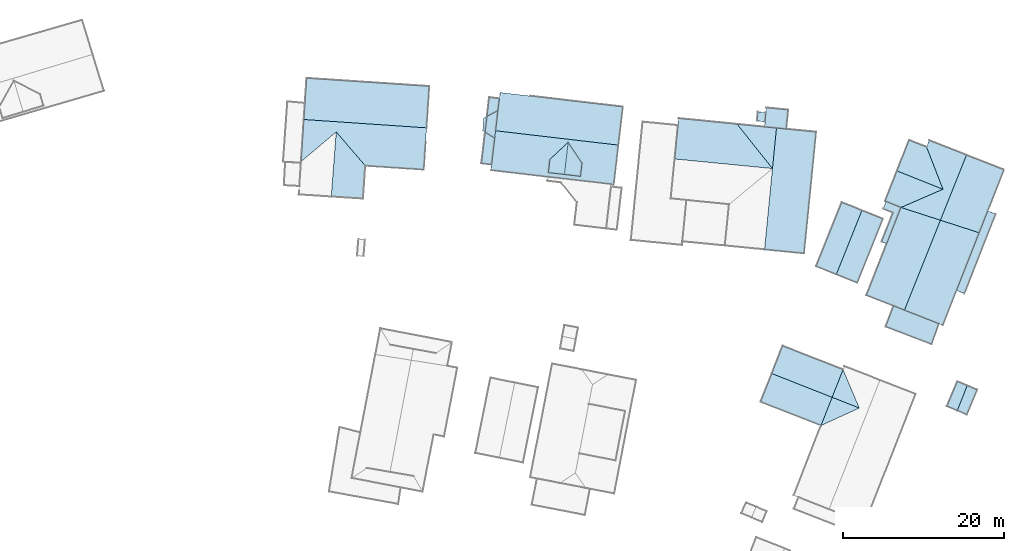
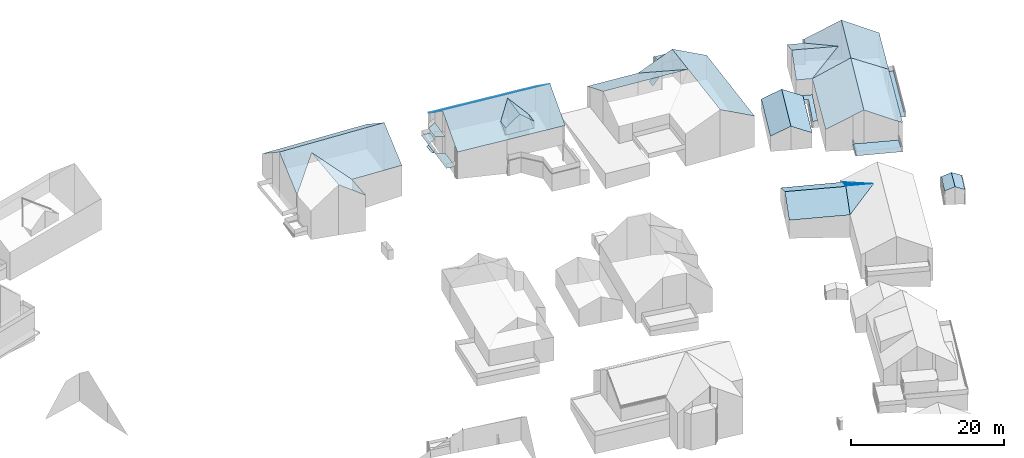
# Not in any storey, part 57 of 57: 66 roofs.
"""IFC4 building model written with IfcOpenShell, lengths in metres."""

from ifc_helpers import new_model, entity, si_unit, converted_unit, frame, origin, place, context, subcontext, project, spatial, face_set, surface_model, element, save


model = new_model("IFC4")

# Units and contexts
model_context = context("Model", 3, precision=1e-05, world=origin())
body_context = subcontext(model_context, "Body", "Model", "MODEL_VIEW")
ifc_project = project(units=[converted_unit("PLANEANGLEUNIT", "DEGREE", entity("IfcRatioMeasure", 0.0174532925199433), si_unit("PLANEANGLEUNIT", "RADIAN"), dimensions=[0, 0, 0, 0, 0, 0, 0]), si_unit("AREAUNIT", "SQUARE_METRE"), si_unit("LENGTHUNIT", "METRE")], contexts=[model_context])

# Site, building
site_placement = place(None, origin())
site = spatial("IfcSite", under=ifc_project, at=site_placement, Name="_site")
building_1_placement = place(site_placement, origin())
building_1 = spatial("IfcBuilding", under=site, at=building_1_placement, Name="_building")

# Roofs
roof_1_placement = place(building_1_placement, origin())
element("IfcRoof", 1, at=roof_1_placement, inside=building_1, Name="Roof", PredefinedType="NOTDEFINED", context=body_context, shape_type="SurfaceModel", body=[
    surface_model("IfcFaceBasedSurfaceModel", [(281.352, 143.278, 113.11), (278.854, 144.277, 111.8), (275.667, 136.357, 111.8), (278.174, 135.347, 113.11)], [face_set([[[0, 1, 2, 3]]])]),
])
roof_2_placement = place(building_1_placement, origin())
element("IfcRoof", 2, at=roof_2_placement, inside=building_1, Name="Roof", PredefinedType="NOTDEFINED", context=body_context, shape_type="SurfaceModel", body=[
    surface_model("IfcFaceBasedSurfaceModel", [(278.174, 135.347, 113.11), (280.772, 134.306, 111.8), (283.959, 142.226, 111.8), (281.352, 143.278, 113.11)], [face_set([[[0, 1, 2, 3]]])]),
])
roof_3_placement = place(building_1_placement, origin())
element("IfcRoof", 3, at=roof_3_placement, inside=building_1, Name="Roof", PredefinedType="NOTDEFINED", context=body_context, shape_type="SurfaceModel", body=[
    surface_model("IfcFaceBasedSurfaceModel", [(281.352, 143.278, 113.11), (278.854, 144.277, 111.8), (275.667, 136.357, 111.8), (278.174, 135.347, 113.11)], [face_set([[[0, 1, 2, 3]]])]),
])
roof_4_placement = place(building_1_placement, origin())
element("IfcRoof", 4, at=roof_4_placement, inside=building_1, Name="Roof", PredefinedType="NOTDEFINED", context=body_context, shape_type="SurfaceModel", body=[
    surface_model("IfcFaceBasedSurfaceModel", [(278.174, 135.347, 113.11), (280.772, 134.306, 111.8), (283.959, 142.226, 111.8), (281.352, 143.278, 113.11)], [face_set([[[0, 1, 2, 3]]])]),
])

# Building
building_2_placement = place(site_placement, origin())
building_2 = spatial("IfcBuilding", under=site, at=building_2_placement, Name="_building")

# Roofs
roof_5_placement = place(building_2_placement, origin())
element("IfcRoof", 5, at=roof_5_placement, inside=building_2, Name="Roof", PredefinedType="NOTDEFINED", context=body_context, shape_type="SurfaceModel", body=[
    surface_model("IfcFaceBasedSurfaceModel", [(251.143, 151.39, 119.58), (251.705, 156.14, 116.13), (236.477, 157.917, 116.15), (236.389, 157.159, 116.697), (236.215, 155.673, 117.77), (235.925, 153.167, 119.58)], [face_set([[[0, 1, 2, 3, 4, 5]]])]),
])
roof_6_placement = place(building_2_placement, origin())
element("IfcRoof", 6, at=roof_6_placement, inside=building_2, Name="Roof", PredefinedType="NOTDEFINED", context=body_context, shape_type="SurfaceModel", body=[
    surface_model("IfcFaceBasedSurfaceModel", [(244.917, 151.736, 119.316), (244.454, 147.744, 119.32), (246.449, 147.507, 117.68), (246.638, 149.164, 117.675)], [face_set([[[0, 1, 2, 3]]])]),
])
roof_7_placement = place(building_2_placement, origin())
element("IfcRoof", 7, at=roof_7_placement, inside=building_2, Name="Roof", PredefinedType="NOTDEFINED", context=body_context, shape_type="SurfaceModel", body=[
    surface_model("IfcFaceBasedSurfaceModel", [(244.917, 151.736, 119.316), (242.657, 149.627, 117.674), (242.468, 147.971, 117.68), (244.454, 147.744, 119.32)], [face_set([[[0, 1, 2, 3]]])]),
])
roof_8_placement = place(building_2_placement, origin())
element("IfcRoof", 8, at=roof_8_placement, inside=building_2, Name="Roof", PredefinedType="NOTDEFINED", context=body_context, shape_type="SurfaceModel", body=[
    surface_model("IfcFaceBasedSurfaceModel", [(235.925, 153.167, 119.58), (235.816, 152.248, 118.935), (235.43, 148.966, 116.632), (235.35, 148.278, 116.15), (242.386, 147.452, 116.15), (250.289, 146.537, 116.15), (250.578, 146.5, 116.15), (251.143, 151.39, 119.58)], [face_set([[[0, 1, 2, 3, 4, 5, 6, 7]]])]),
])
roof_9_placement = place(building_2_placement, origin())
element("IfcRoof", 9, at=roof_9_placement, inside=building_2, Name="Roof", PredefinedType="NOTDEFINED", context=body_context, shape_type="SurfaceModel", body=[
    surface_model("IfcFaceBasedSurfaceModel", [(251.143, 151.39, 119.58), (251.705, 156.14, 116.13), (236.477, 157.917, 116.15), (236.389, 157.159, 116.697), (236.215, 155.673, 117.77), (235.925, 153.167, 119.58)], [face_set([[[0, 1, 2, 3, 4, 5]]])]),
])
roof_10_placement = place(building_2_placement, origin())
element("IfcRoof", 10, at=roof_10_placement, inside=building_2, Name="Roof", PredefinedType="NOTDEFINED", context=body_context, shape_type="SurfaceModel", body=[
    surface_model("IfcFaceBasedSurfaceModel", [(235.925, 153.167, 116.07), (236.215, 155.673, 116.07), (234.856, 154.961, 116.07), (234.622, 152.968, 116.07), (235.816, 152.248, 116.07)], [face_set([[[0, 1, 2, 3, 4]]])]),
])
roof_11_placement = place(building_2_placement, origin())
element("IfcRoof", 11, at=roof_11_placement, inside=building_2, Name="Roof", PredefinedType="NOTDEFINED", context=body_context, shape_type="SurfaceModel", body=[
    surface_model("IfcFaceBasedSurfaceModel", [(235.925, 153.167, 119.58), (235.816, 152.248, 118.935), (235.43, 148.966, 116.632), (235.35, 148.278, 116.15), (242.386, 147.452, 116.15), (250.289, 146.537, 116.15), (250.578, 146.5, 116.15), (251.143, 151.39, 119.58)], [face_set([[[0, 1, 2, 3, 4, 5, 6, 7]]])]),
])
roof_12_placement = place(building_2_placement, origin())
element("IfcRoof", 12, at=roof_12_placement, inside=building_2, Name="Roof", PredefinedType="NOTDEFINED", context=body_context, shape_type="SurfaceModel", body=[
    surface_model("IfcFaceBasedSurfaceModel", [(244.917, 151.736, 119.316), (242.657, 149.627, 117.674), (242.468, 147.971, 117.68), (244.454, 147.744, 119.32)], [face_set([[[0, 1, 2, 3]]])]),
])
roof_13_placement = place(building_2_placement, origin())
element("IfcRoof", 13, at=roof_13_placement, inside=building_2, Name="Roof", PredefinedType="NOTDEFINED", context=body_context, shape_type="SurfaceModel", body=[
    surface_model("IfcFaceBasedSurfaceModel", [(244.917, 151.736, 119.316), (244.454, 147.744, 119.32), (246.449, 147.507, 117.68), (246.638, 149.164, 117.675)], [face_set([[[0, 1, 2, 3]]])]),
])
roof_14_placement = place(building_2_placement, origin())
element("IfcRoof", 14, at=roof_14_placement, inside=building_2, Name="Roof", PredefinedType="NOTDEFINED", context=body_context, shape_type="SurfaceModel", body=[
    surface_model("IfcFaceBasedSurfaceModel", [(244.454, 147.744, 116.516), (246.449, 147.507, 116.513), (246.638, 149.164, 117.675), (244.917, 151.736, 119.316), (242.657, 149.627, 117.674), (242.468, 147.971, 116.513)], [face_set([[[0, 1, 2, 3, 4, 5]]])]),
])
roof_15_placement = place(building_2_placement, origin())
element("IfcRoof", 15, at=roof_15_placement, inside=building_2, Name="Roof", PredefinedType="NOTDEFINED", context=body_context, shape_type="SurfaceModel", body=[
    surface_model("IfcFaceBasedSurfaceModel", [(234.856, 154.961, 113.45), (236.215, 155.673, 113.45), (236.389, 157.159, 113.45), (235.132, 157.308, 113.45)], [face_set([[[0, 1, 2, 3]]])]),
])
roof_16_placement = place(building_2_placement, origin())
element("IfcRoof", 16, at=roof_16_placement, inside=building_2, Name="Roof", PredefinedType="NOTDEFINED", context=body_context, shape_type="SurfaceModel", body=[
    surface_model("IfcFaceBasedSurfaceModel", [(234.856, 154.961, 113.45), (234.421, 154.733, 113.45), (234.314, 153.154, 113.45), (234.622, 152.968, 113.45)], [face_set([[[0, 1, 2, 3]]])]),
])
for number, where, name in (
    (17, (0.0, 0.0, 0.0), "Roof"),
    (18, (0.0, 0.0, 0.0), "Roof"),
):
    element("IfcRoof", number, at=place(building_2_placement, frame(where)), inside=building_2, Name=name, PredefinedType="NOTDEFINED", context=body_context, shape_type="SurfaceModel", body=[
        surface_model("IfcFaceBasedSurfaceModel", [(235.43, 148.966, 113.45), (235.816, 152.248, 113.45), (234.622, 152.968, 113.45), (234.169, 149.116, 113.45)], [face_set([[[0, 1, 2, 3]]])]),
    ])
roof_17_placement = place(building_2_placement, origin())
element("IfcRoof", 19, at=roof_17_placement, inside=building_2, Name="Roof", PredefinedType="NOTDEFINED", context=body_context, shape_type="SurfaceModel", body=[
    surface_model("IfcFaceBasedSurfaceModel", [(234.856, 154.961, 113.45), (234.421, 154.733, 113.45), (234.314, 153.154, 113.45), (234.622, 152.968, 113.45)], [face_set([[[0, 1, 2, 3]]])]),
])
roof_18_placement = place(building_2_placement, origin())
element("IfcRoof", 20, at=roof_18_placement, inside=building_2, Name="Roof", PredefinedType="NOTDEFINED", context=body_context, shape_type="SurfaceModel", body=[
    surface_model("IfcFaceBasedSurfaceModel", [(234.856, 154.961, 113.45), (236.215, 155.673, 113.45), (236.389, 157.159, 113.45), (235.132, 157.308, 113.45)], [face_set([[[0, 1, 2, 3]]])]),
])
roof_19_placement = place(building_2_placement, origin())
element("IfcRoof", 21, at=roof_19_placement, inside=building_2, Name="Roof", PredefinedType="NOTDEFINED", context=body_context, shape_type="SurfaceModel", body=[
    surface_model("IfcFaceBasedSurfaceModel", [(235.925, 153.167, 116.07), (236.215, 155.673, 116.07), (234.856, 154.961, 116.07), (234.622, 152.968, 116.07), (235.816, 152.248, 116.07)], [face_set([[[0, 1, 2, 3, 4]]])]),
])

# Building
building_3_placement = place(site_placement, origin())
building_3 = spatial("IfcBuilding", under=site, at=building_3_placement, Name="_building")

# Roofs
roof_20_placement = place(building_3_placement, origin())
element("IfcRoof", 22, at=roof_20_placement, inside=building_3, Name="Roof", PredefinedType="NOTDEFINED", context=body_context, shape_type="SurfaceModel", body=[
    surface_model("IfcFaceBasedSurfaceModel", [(293.179, 118.466, 108.44), (294.358, 117.968, 107.89), (295.65, 121.03, 107.89), (294.402, 121.559, 108.44)], [face_set([[[0, 1, 2, 3]]])]),
])
roof_21_placement = place(building_3_placement, origin())
element("IfcRoof", 23, at=roof_21_placement, inside=building_3, Name="Roof", PredefinedType="NOTDEFINED", context=body_context, shape_type="SurfaceModel", body=[
    surface_model("IfcFaceBasedSurfaceModel", [(294.402, 121.559, 108.44), (293.193, 122.068, 107.89), (291.901, 119.006, 107.89), (293.179, 118.466, 108.44)], [face_set([[[0, 1, 2, 3]]])]),
])
roof_22_placement = place(building_3_placement, origin())
element("IfcRoof", 24, at=roof_22_placement, inside=building_3, Name="Roof", PredefinedType="NOTDEFINED", context=body_context, shape_type="SurfaceModel", body=[
    surface_model("IfcFaceBasedSurfaceModel", [(293.179, 118.466, 108.44), (294.358, 117.968, 107.89), (295.65, 121.03, 107.89), (294.402, 121.559, 108.44)], [face_set([[[0, 1, 2, 3]]])]),
])
roof_23_placement = place(building_3_placement, origin())
element("IfcRoof", 25, at=roof_23_placement, inside=building_3, Name="Roof", PredefinedType="NOTDEFINED", context=body_context, shape_type="SurfaceModel", body=[
    surface_model("IfcFaceBasedSurfaceModel", [(294.402, 121.559, 108.44), (293.193, 122.068, 107.89), (291.901, 119.006, 107.89), (293.179, 118.466, 108.44)], [face_set([[[0, 1, 2, 3]]])]),
])

# Building
building_4_placement = place(site_placement, origin())
building_4 = spatial("IfcBuilding", under=site, at=building_4_placement, Name="_building")

# Roofs
roof_24_placement = place(building_4_placement, origin())
element("IfcRoof", 26, at=roof_24_placement, inside=building_4, Name="Roof", PredefinedType="NOTDEFINED", context=body_context, shape_type="SurfaceModel", body=[
    surface_model("IfcFaceBasedSurfaceModel", [(286.616, 130.917, 115.43), (290.89, 129.238, 113.127), (291.385, 129.044, 112.86), (293.08, 133.357, 112.86), (295.896, 140.516, 112.86), (291.085, 142.072, 115.43)], [face_set([[[0, 1, 2, 3, 4, 5]]])]),
])
roof_25_placement = place(building_4_placement, origin())
element("IfcRoof", 27, at=roof_25_placement, inside=building_4, Name="Roof", PredefinedType="NOTDEFINED", context=body_context, shape_type="SurfaceModel", body=[
    surface_model("IfcFaceBasedSurfaceModel", [(291.085, 142.072, 115.43), (286.194, 143.655, 112.87), (281.916, 132.768, 112.86), (285.277, 131.446, 114.697), (286.616, 130.917, 115.43)], [face_set([[[0, 1, 2, 3, 4]]])]),
])
roof_26_placement = place(building_4_placement, origin())
element("IfcRoof", 28, at=roof_26_placement, inside=building_4, Name="Roof", PredefinedType="NOTDEFINED", context=body_context, shape_type="SurfaceModel", body=[
    surface_model("IfcFaceBasedSurfaceModel", [(286.616, 130.917, 115.43), (290.89, 129.238, 113.127), (291.385, 129.044, 112.86), (293.08, 133.357, 112.86), (295.896, 140.516, 112.86), (291.085, 142.072, 115.43)], [face_set([[[0, 1, 2, 3, 4, 5]]])]),
])
roof_27_placement = place(building_4_placement, origin())
element("IfcRoof", 29, at=roof_27_placement, inside=building_4, Name="Roof", PredefinedType="NOTDEFINED", context=body_context, shape_type="SurfaceModel", body=[
    surface_model("IfcFaceBasedSurfaceModel", [(296.962, 143.222, 110.52), (295.896, 140.516, 110.52), (293.08, 133.357, 110.52), (294.059, 132.974, 110.52), (297.942, 142.84, 110.52)], [face_set([[[0, 1, 2, 3, 4]]])]),
])
roof_28_placement = place(building_4_placement, origin())
element("IfcRoof", 30, at=roof_28_placement, inside=building_4, Name="Roof", PredefinedType="NOTDEFINED", context=body_context, shape_type="SurfaceModel", body=[
    surface_model("IfcFaceBasedSurfaceModel", [(290.89, 129.238, 110.185), (286.616, 130.917, 110.185), (285.277, 131.446, 110.185), (284.297, 128.87, 110.185), (289.989, 126.686, 110.185)], [face_set([[[0, 1, 2, 3, 4]]])]),
])
roof_29_placement = place(building_4_placement, origin())
element("IfcRoof", 31, at=roof_29_placement, inside=building_4, Name="Roof", PredefinedType="NOTDEFINED", context=body_context, shape_type="SurfaceModel", body=[
    surface_model("IfcFaceBasedSurfaceModel", [(296.962, 143.222, 110.52), (295.896, 140.516, 110.52), (293.08, 133.357, 110.52), (294.059, 132.974, 110.52), (297.942, 142.84, 110.52)], [face_set([[[0, 1, 2, 3, 4]]])]),
])
roof_30_placement = place(building_4_placement, origin())
element("IfcRoof", 32, at=roof_30_placement, inside=building_4, Name="Roof", PredefinedType="NOTDEFINED", context=body_context, shape_type="SurfaceModel", body=[
    surface_model("IfcFaceBasedSurfaceModel", [(290.89, 129.238, 110.185), (286.616, 130.917, 110.185), (285.277, 131.446, 110.185), (284.297, 128.87, 110.185), (289.989, 126.686, 110.185)], [face_set([[[0, 1, 2, 3, 4]]])]),
])
roof_31_placement = place(building_4_placement, origin())
element("IfcRoof", 33, at=roof_31_placement, inside=building_4, Name="Roof", PredefinedType="NOTDEFINED", context=body_context, shape_type="SurfaceModel", body=[
    surface_model("IfcFaceBasedSurfaceModel", [(291.085, 142.072, 115.43), (286.194, 143.655, 112.87), (281.916, 132.768, 112.86), (285.277, 131.446, 114.697), (286.616, 130.917, 115.43)], [face_set([[[0, 1, 2, 3, 4]]])]),
])

# Building
building_5_placement = place(site_placement, origin())
building_5 = spatial("IfcBuilding", under=site, at=building_5_placement, Name="_building")

# Roofs
roof_32_placement = place(building_5_placement, origin())
element("IfcRoof", 34, at=roof_32_placement, inside=building_5, Name="Roof", PredefinedType="NOTDEFINED", context=body_context, shape_type="SurfaceModel", body=[
    surface_model("IfcFaceBasedSurfaceModel", [(273.573, 121.716, 112.96), (277.655, 120.109, 112.96), (279.009, 123.541, 111.07), (271.513, 126.478, 111.02), (270.172, 123.057, 112.96)], [face_set([[[0, 1, 2, 3, 4]]])]),
])
roof_33_placement = place(building_5_placement, origin())
element("IfcRoof", 35, at=roof_33_placement, inside=building_5, Name="Roof", PredefinedType="NOTDEFINED", context=body_context, shape_type="SurfaceModel", body=[
    surface_model("IfcFaceBasedSurfaceModel", [(270.172, 123.057, 112.96), (268.789, 119.537, 111.02), (276.275, 116.611, 111.02), (277.655, 120.109, 112.96), (273.573, 121.716, 112.96)], [face_set([[[0, 1, 2, 3, 4]]])]),
])
roof_34_placement = place(building_5_placement, origin())
element("IfcRoof", 36, at=roof_34_placement, inside=building_5, Name="Roof", PredefinedType="NOTDEFINED", context=body_context, shape_type="SurfaceModel", body=[
    surface_model("IfcFaceBasedSurfaceModel", [(273.573, 121.716, 112.96), (277.655, 120.109, 112.96), (279.009, 123.541, 111.07), (271.513, 126.478, 111.02), (270.172, 123.057, 112.96)], [face_set([[[0, 1, 2, 3, 4]]])]),
])
roof_35_placement = place(building_5_placement, origin())
element("IfcRoof", 37, at=roof_35_placement, inside=building_5, Name="Roof", PredefinedType="NOTDEFINED", context=body_context, shape_type="SurfaceModel", body=[
    surface_model("IfcFaceBasedSurfaceModel", [(270.172, 123.057, 112.96), (268.789, 119.537, 111.02), (276.275, 116.611, 111.02), (277.655, 120.109, 112.96), (273.573, 121.716, 112.96)], [face_set([[[0, 1, 2, 3, 4]]])]),
])

# Building
building_6_placement = place(site_placement, origin())
building_6 = spatial("IfcBuilding", under=site, at=building_6_placement, Name="_building")

# Roofs
roof_36_placement = place(building_6_placement, origin())
element("IfcRoof", 38, at=roof_36_placement, inside=building_6, Name="Roof", PredefinedType="NOTDEFINED", context=body_context, shape_type="SurfaceModel", body=[
    surface_model("IfcFaceBasedSurfaceModel", [(289.371, 151.145, 112.87), (287.2, 152.007, 112.87), (285.709, 148.189, 114.84), (291.4, 145.914, 114.84)], [face_set([[[0, 1, 2, 3]]])]),
])
roof_37_placement = place(building_6_placement, origin())
element("IfcRoof", 39, at=roof_37_placement, inside=building_6, Name="Roof", PredefinedType="NOTDEFINED", context=body_context, shape_type="SurfaceModel", body=[
    surface_model("IfcFaceBasedSurfaceModel", [(283.988, 143.476, 110.32), (285.208, 142.997, 110.32), (283.793, 139.398, 109.47), (284.427, 139.153, 109.47), (286.194, 143.655, 110.32), (284.34, 144.389, 110.32)], [face_set([[[0, 1, 2, 3, 4, 5]]])]),
])
roof_38_placement = place(building_6_placement, origin())
element("IfcRoof", 40, at=roof_38_placement, inside=building_6, Name="Roof", PredefinedType="NOTDEFINED", context=body_context, shape_type="SurfaceModel", body=[
    surface_model("IfcFaceBasedSurfaceModel", [(285.709, 148.189, 114.84), (284.221, 144.432, 112.87), (286.194, 143.655, 112.87), (291.4, 145.914, 114.84)], [face_set([[[0, 1, 2, 3]]])]),
])
roof_39_placement = place(building_6_placement, origin())
element("IfcRoof", 41, at=roof_39_placement, inside=building_6, Name="Roof", PredefinedType="NOTDEFINED", context=body_context, shape_type="SurfaceModel", body=[
    surface_model("IfcFaceBasedSurfaceModel", [(291.085, 142.072, 115.43), (295.896, 140.516, 112.86), (296.962, 143.222, 112.86), (298.971, 148.319, 112.86), (294.321, 150.149, 115.43)], [face_set([[[0, 1, 2, 3, 4]]])]),
])
roof_40_placement = place(building_6_placement, origin())
element("IfcRoof", 42, at=roof_40_placement, inside=building_6, Name="Roof", PredefinedType="NOTDEFINED", context=body_context, shape_type="SurfaceModel", body=[
    surface_model("IfcFaceBasedSurfaceModel", [(291.4, 145.914, 114.84), (286.194, 143.655, 112.87), (291.085, 142.072, 115.43), (294.321, 150.149, 115.43), (289.69, 151.968, 112.87), (289.371, 151.145, 112.87)], [face_set([[[0, 1, 2, 3, 4, 5]]])]),
])
roof_41_placement = place(building_6_placement, origin())
element("IfcRoof", 43, at=roof_41_placement, inside=building_6, Name="Roof", PredefinedType="NOTDEFINED", context=body_context, shape_type="SurfaceModel", body=[
    surface_model("IfcFaceBasedSurfaceModel", [(289.371, 151.145, 112.87), (287.2, 152.007, 112.87), (285.709, 148.189, 114.84), (291.4, 145.914, 114.84)], [face_set([[[0, 1, 2, 3]]])]),
])
roof_42_placement = place(building_6_placement, origin())
element("IfcRoof", 44, at=roof_42_placement, inside=building_6, Name="Roof", PredefinedType="NOTDEFINED", context=body_context, shape_type="SurfaceModel", body=[
    surface_model("IfcFaceBasedSurfaceModel", [(283.988, 143.476, 110.32), (285.208, 142.997, 110.32), (283.793, 139.398, 109.47), (284.427, 139.153, 109.47), (286.194, 143.655, 110.32), (284.34, 144.389, 110.32)], [face_set([[[0, 1, 2, 3, 4, 5]]])]),
])
roof_43_placement = place(building_6_placement, origin())
element("IfcRoof", 45, at=roof_43_placement, inside=building_6, Name="Roof", PredefinedType="NOTDEFINED", context=body_context, shape_type="SurfaceModel", body=[
    surface_model("IfcFaceBasedSurfaceModel", [(285.709, 148.189, 114.84), (284.221, 144.432, 112.87), (286.194, 143.655, 112.87), (291.4, 145.914, 114.84)], [face_set([[[0, 1, 2, 3]]])]),
])
roof_44_placement = place(building_6_placement, origin())
element("IfcRoof", 46, at=roof_44_placement, inside=building_6, Name="Roof", PredefinedType="NOTDEFINED", context=body_context, shape_type="SurfaceModel", body=[
    surface_model("IfcFaceBasedSurfaceModel", [(291.085, 142.072, 115.43), (295.896, 140.516, 112.86), (296.962, 143.222, 112.86), (298.971, 148.319, 112.86), (294.321, 150.149, 115.43)], [face_set([[[0, 1, 2, 3, 4]]])]),
])
roof_45_placement = place(building_6_placement, origin())
element("IfcRoof", 47, at=roof_45_placement, inside=building_6, Name="Roof", PredefinedType="NOTDEFINED", context=body_context, shape_type="SurfaceModel", body=[
    surface_model("IfcFaceBasedSurfaceModel", [(291.4, 145.914, 114.84), (286.194, 143.655, 112.87), (291.085, 142.072, 115.43), (294.321, 150.149, 115.43), (289.69, 151.968, 112.87), (289.371, 151.145, 112.87)], [face_set([[[0, 1, 2, 3, 4, 5]]])]),
])

# Building
building_7_placement = place(site_placement, origin())
building_7 = spatial("IfcBuilding", under=site, at=building_7_placement, Name="_building")

# Roofs
roof_46_placement = place(building_7_placement, origin())
element("IfcRoof", 48, at=roof_46_placement, inside=building_7, Name="Roof", PredefinedType="NOTDEFINED", context=body_context, shape_type="SurfaceModel", body=[
    surface_model("IfcFaceBasedSurfaceModel", [(216.15, 153.02, 119.89), (219.764, 148.822, 116.92), (227.017, 148.342, 116.92), (227.358, 153.528, 120.47), (212.143, 154.564, 120.47), (211.801, 149.349, 116.92)], [face_set([[[0, 1, 2, 3, 4, 5]]])]),
])
roof_47_placement = place(building_7_placement, origin())
element("IfcRoof", 49, at=roof_47_placement, inside=building_7, Name="Roof", PredefinedType="NOTDEFINED", context=body_context, shape_type="SurfaceModel", body=[
    surface_model("IfcFaceBasedSurfaceModel", [(227.358, 153.528, 120.47), (227.699, 158.683, 116.97), (215.76, 159.473, 116.97), (212.483, 159.689, 116.98), (212.278, 156.582, 119.096), (212.143, 154.564, 120.47)], [face_set([[[0, 1, 2, 3, 4, 5]]])]),
])
roof_48_placement = place(building_7_placement, origin())
element("IfcRoof", 50, at=roof_48_placement, inside=building_7, Name="Roof", PredefinedType="NOTDEFINED", context=body_context, shape_type="SurfaceModel", body=[
    surface_model("IfcFaceBasedSurfaceModel", [(215.531, 144.989, 119.89), (219.488, 144.736, 116.98), (219.764, 148.822, 116.92), (216.15, 153.02, 119.89)], [face_set([[[0, 1, 2, 3]]])]),
])
roof_49_placement = place(building_7_placement, origin())
element("IfcRoof", 51, at=roof_49_placement, inside=building_7, Name="Roof", PredefinedType="NOTDEFINED", context=body_context, shape_type="SurfaceModel", body=[
    surface_model("IfcFaceBasedSurfaceModel", [(216.15, 153.02, 119.89), (219.764, 148.822, 116.92), (227.017, 148.342, 116.92), (227.358, 153.528, 120.47), (212.143, 154.564, 120.47), (211.801, 149.349, 116.92)], [face_set([[[0, 1, 2, 3, 4, 5]]])]),
])
roof_50_placement = place(building_7_placement, origin())
element("IfcRoof", 52, at=roof_50_placement, inside=building_7, Name="Roof", PredefinedType="NOTDEFINED", context=body_context, shape_type="SurfaceModel", body=[
    surface_model("IfcFaceBasedSurfaceModel", [(227.358, 153.528, 120.47), (227.699, 158.683, 116.97), (215.76, 159.473, 116.97), (212.483, 159.689, 116.98), (212.278, 156.582, 119.096), (212.143, 154.564, 120.47)], [face_set([[[0, 1, 2, 3, 4, 5]]])]),
])

# Building
building_8_placement = place(site_placement, origin())
building_8 = spatial("IfcBuilding", under=site, at=building_8_placement, Name="_building")

# Roofs
roof_51_placement = place(building_8_placement, origin())
element("IfcRoof", 53, at=roof_51_placement, inside=building_8, Name="Roof", PredefinedType="NOTDEFINED", context=body_context, shape_type="SurfaceModel", body=[
    surface_model("IfcFaceBasedSurfaceModel", [(279.009, 123.541, 111.07), (277.655, 120.109, 112.96), (281.029, 118.78, 112.96)], [face_set([[[0, 1, 2]]])]),
])
for number, where, name in (
    (54, (0.0, 0.0, 0.0), "Roof"),
    (55, (0.0, 0.0, 0.0), "Roof"),
):
    element("IfcRoof", number, at=place(building_8_placement, frame(where)), inside=building_8, Name=name, PredefinedType="NOTDEFINED", context=body_context, shape_type="SurfaceModel", body=[
        surface_model("IfcFaceBasedSurfaceModel", [(277.655, 120.109, 112.96), (276.275, 116.611, 111.02), (281.029, 118.78, 112.96)], [face_set([[[0, 1, 2]]])]),
    ])
roof_52_placement = place(building_8_placement, origin())
element("IfcRoof", 56, at=roof_52_placement, inside=building_8, Name="Roof", PredefinedType="NOTDEFINED", context=body_context, shape_type="SurfaceModel", body=[
    surface_model("IfcFaceBasedSurfaceModel", [(279.009, 123.541, 111.07), (277.655, 120.109, 112.96), (281.029, 118.78, 112.96)], [face_set([[[0, 1, 2]]])]),
])

# Building
building_9_placement = place(site_placement, origin())
building_9 = spatial("IfcBuilding", under=site, at=building_9_placement, Name="_building")

# Roofs
roof_53_placement = place(building_9_placement, origin())
element("IfcRoof", 57, at=roof_53_placement, inside=building_9, Name="Roof", PredefinedType="NOTDEFINED", context=body_context, shape_type="SurfaceModel", body=[
    surface_model("IfcFaceBasedSurfaceModel", [(270.257, 148.481, 117.01), (270.755, 153.502, 117.01), (269.267, 153.647, 116.27), (265.873, 153.987, 114.59)], [face_set([[[0, 1, 2, 3]]])]),
])
roof_54_placement = place(building_9_placement, origin())
element("IfcRoof", 58, at=roof_54_placement, inside=building_9, Name="Roof", PredefinedType="NOTDEFINED", context=body_context, shape_type="SurfaceModel", body=[
    surface_model("IfcFaceBasedSurfaceModel", [(271.973, 153.384, 115.18), (272.208, 155.76, 114.69), (269.503, 156.033, 114.69), (269.447, 155.444, 114.816), (269.331, 154.286, 115.063), (269.267, 153.647, 115.2), (270.755, 153.502, 115.189)], [face_set([[[0, 1, 2, 3, 4, 5, 6]]])]),
])
roof_55_placement = place(building_9_placement, origin())
element("IfcRoof", 59, at=roof_55_placement, inside=building_9, Name="Roof", PredefinedType="NOTDEFINED", context=body_context, shape_type="SurfaceModel", body=[
    surface_model("IfcFaceBasedSurfaceModel", [(269.331, 154.286, 112.59), (269.447, 155.444, 112.59), (268.461, 155.537, 111.41), (268.344, 154.379, 111.41)], [face_set([[[0, 1, 2, 3]]])]),
])
roof_56_placement = place(building_9_placement, origin())
element("IfcRoof", 60, at=roof_56_placement, inside=building_9, Name="Roof", PredefinedType="NOTDEFINED", context=body_context, shape_type="SurfaceModel", body=[
    surface_model("IfcFaceBasedSurfaceModel", [(265.873, 153.987, 114.59), (258.635, 154.706, 114.59), (258.545, 153.838, 115.01), (258.136, 149.665, 117.01), (270.257, 148.481, 117.01)], [face_set([[[0, 1, 2, 3, 4]]])]),
])
roof_57_placement = place(building_9_placement, origin())
element("IfcRoof", 61, at=roof_57_placement, inside=building_9, Name="Roof", PredefinedType="NOTDEFINED", context=body_context, shape_type="SurfaceModel", body=[
    surface_model("IfcFaceBasedSurfaceModel", [(269.271, 138.438, 117.01), (274.173, 137.953, 114.59), (275.676, 153.017, 114.59), (271.973, 153.384, 116.41), (270.755, 153.502, 117.01), (270.257, 148.481, 117.01)], [face_set([[[0, 1, 2, 3, 4, 5]]])]),
])
roof_58_placement = place(building_9_placement, origin())
element("IfcRoof", 62, at=roof_58_placement, inside=building_9, Name="Roof", PredefinedType="NOTDEFINED", context=body_context, shape_type="SurfaceModel", body=[
    surface_model("IfcFaceBasedSurfaceModel", [(270.257, 148.481, 117.01), (270.755, 153.502, 117.01), (269.267, 153.647, 116.27), (265.873, 153.987, 114.59)], [face_set([[[0, 1, 2, 3]]])]),
])
roof_59_placement = place(building_9_placement, origin())
element("IfcRoof", 63, at=roof_59_placement, inside=building_9, Name="Roof", PredefinedType="NOTDEFINED", context=body_context, shape_type="SurfaceModel", body=[
    surface_model("IfcFaceBasedSurfaceModel", [(269.331, 154.286, 112.59), (269.447, 155.444, 112.59), (268.461, 155.537, 111.41), (268.344, 154.379, 111.41)], [face_set([[[0, 1, 2, 3]]])]),
])
roof_60_placement = place(building_9_placement, origin())
element("IfcRoof", 64, at=roof_60_placement, inside=building_9, Name="Roof", PredefinedType="NOTDEFINED", context=body_context, shape_type="SurfaceModel", body=[
    surface_model("IfcFaceBasedSurfaceModel", [(265.873, 153.987, 114.59), (258.635, 154.706, 114.59), (258.545, 153.838, 115.01), (258.136, 149.665, 117.01), (270.257, 148.481, 117.01)], [face_set([[[0, 1, 2, 3, 4]]])]),
])
roof_61_placement = place(building_9_placement, origin())
element("IfcRoof", 65, at=roof_61_placement, inside=building_9, Name="Roof", PredefinedType="NOTDEFINED", context=body_context, shape_type="SurfaceModel", body=[
    surface_model("IfcFaceBasedSurfaceModel", [(269.271, 138.438, 117.01), (274.173, 137.953, 114.59), (275.676, 153.017, 114.59), (271.973, 153.384, 116.41), (270.755, 153.502, 117.01), (270.257, 148.481, 117.01)], [face_set([[[0, 1, 2, 3, 4, 5]]])]),
])
roof_62_placement = place(building_9_placement, origin())
element("IfcRoof", 66, at=roof_62_placement, inside=building_9, Name="Roof", PredefinedType="NOTDEFINED", context=body_context, shape_type="SurfaceModel", body=[
    surface_model("IfcFaceBasedSurfaceModel", [(271.973, 153.384, 115.18), (272.208, 155.76, 114.69), (269.503, 156.033, 114.69), (269.447, 155.444, 114.816), (269.331, 154.286, 115.063), (269.267, 153.647, 115.2), (270.755, 153.502, 115.189)], [face_set([[[0, 1, 2, 3, 4, 5, 6]]])]),
])

save(model, "model.ifc")
